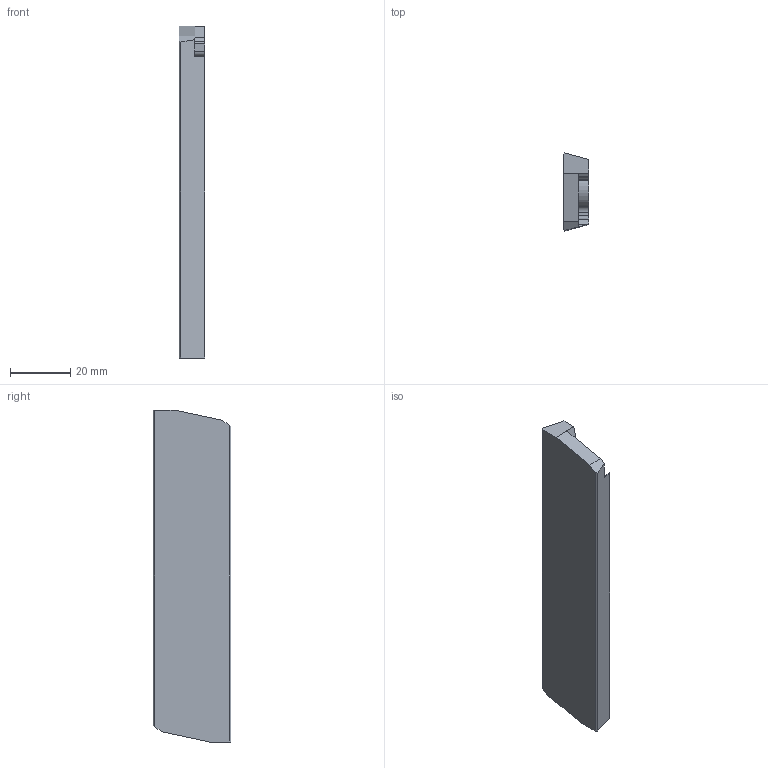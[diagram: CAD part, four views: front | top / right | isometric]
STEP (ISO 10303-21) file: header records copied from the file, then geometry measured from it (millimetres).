
FILE_DESCRIPTION(('CATIA V5 STEP','CAx-IF Rec.Pracs.--- Model Styling and Organization---1.2---2011-12-15'),'2;1');
FILE_NAME('I:\isr\design\admin8\users\raid_s\2301688-D.stp','2014-02-04T10:03:53+00:00',('none'),('none'),'CATIA Version 5 Release 21 SP 5 (IN-10)','CATIA V5 STEP AP214','none');
FILE_SCHEMA(('AUTOMOTIVE_DESIGN { 1 0 10303 214 1 1 1 1 }'));
Length unit declared in the file: millimetre
Products named in the file (1): 620117327_0  PCHBL 26-24R
Bounding box: 8.5 x 25.73 x 110 mm (x, y, z)
Volume: 19983.8 mm3; surface area: 7409.5 mm2
Topology: 1 solids, 1 shells, 55 faces, 165 edges, 112 vertices
Faces by surface type: plane 33, cylinder 22
Entity records: 1854 total; most frequent: CARTESIAN_POINT 347, ORIENTED_EDGE 330, DIRECTION 271, EDGE_CURVE 165, VECTOR 120, LINE 120, VERTEX_POINT 112, AXIS2_PLACEMENT_3D 98
